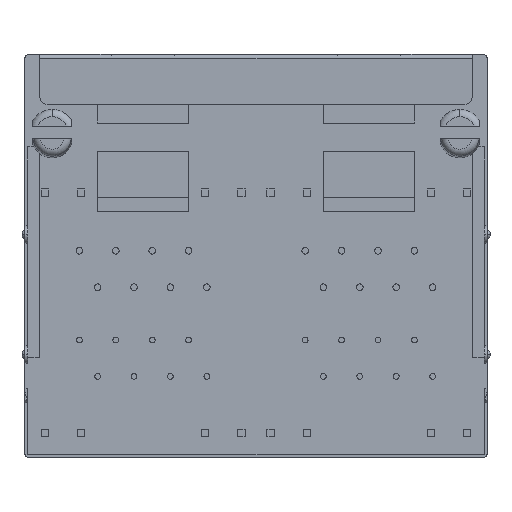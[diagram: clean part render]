
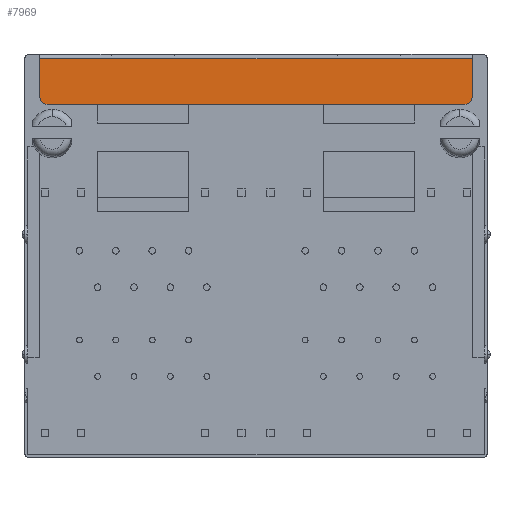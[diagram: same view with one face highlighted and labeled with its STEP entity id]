
A CAD part, front view. The second image highlights one B-rep face of the part: STEP entity #7969.
In plain terms, the highlighted planar face has unit normal (0, -1, 0).
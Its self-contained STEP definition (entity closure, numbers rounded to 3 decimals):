
#22 = ORIENTED_EDGE ( 'NONE', *, *, #17649, .T. ) ;
#193 = CARTESIAN_POINT ( 'NONE',  ( 23.352, -10.622, 11.075 ) ) ;
#1204 = EDGE_CURVE ( 'NONE', #27133, #26561, #25817, .T. ) ;
#1419 = CIRCLE ( 'NONE', #5849, 0.5 ) ;
#1609 = LINE ( 'NONE', #29257, #17470 ) ;
#2187 = ORIENTED_EDGE ( 'NONE', *, *, #11264, .F. ) ;
#2387 = VECTOR ( 'NONE', #24136, 1000. ) ;
#4523 = DIRECTION ( 'NONE',  ( 0., 0., 1. ) ) ;
#5126 = CARTESIAN_POINT ( 'NONE',  ( -6.298, -10.622, 14.075 ) ) ;
#5691 = DIRECTION ( 'NONE',  ( 0., -1., 0. ) ) ;
#5849 = AXIS2_PLACEMENT_3D ( 'NONE', #17403, #5691, #15103 ) ;
#6128 = ORIENTED_EDGE ( 'NONE', *, *, #8989, .T. ) ;
#6394 = FACE_OUTER_BOUND ( 'NONE', #20317, .T. ) ;
#6742 = VECTOR ( 'NONE', #17626, 1000. ) ;
#7013 = CARTESIAN_POINT ( 'NONE',  ( -6.298, -10.622, 11.075 ) ) ;
#7453 = LINE ( 'NONE', #9935, #9580 ) ;
#7734 = ORIENTED_EDGE ( 'NONE', *, *, #1204, .F. ) ;
#7969 = ADVANCED_FACE ( 'NONE', ( #6394 ), #18400, .F. ) ;
#8147 = CARTESIAN_POINT ( 'NONE',  ( 23.852, -10.622, 11.075 ) ) ;
#8193 = CARTESIAN_POINT ( 'NONE',  ( -6.298, -10.622, 13.775 ) ) ;
#8224 = LINE ( 'NONE', #25206, #6742 ) ;
#8293 = CIRCLE ( 'NONE', #18630, 0.5 ) ;
#8603 = VERTEX_POINT ( 'NONE', #12497 ) ;
#8863 = DIRECTION ( 'NONE',  ( 1., 0., 0. ) ) ;
#8989 = EDGE_CURVE ( 'NONE', #23817, #8603, #1609, .T. ) ;
#9580 = VECTOR ( 'NONE', #28617, 1000. ) ;
#9618 = DIRECTION ( 'NONE',  ( 0., 1., 0. ) ) ;
#9671 = CARTESIAN_POINT ( 'NONE',  ( 23.352, -10.622, 10.575 ) ) ;
#9935 = CARTESIAN_POINT ( 'NONE',  ( -6.298, -10.622, 10.575 ) ) ;
#11264 = EDGE_CURVE ( 'NONE', #26561, #8603, #8224, .T. ) ;
#12497 = CARTESIAN_POINT ( 'NONE',  ( 23.852, -10.622, 13.775 ) ) ;
#13481 = DIRECTION ( 'NONE',  ( 0., 1., 0. ) ) ;
#13568 = EDGE_CURVE ( 'NONE', #23817, #19788, #8293, .T. ) ;
#15103 = DIRECTION ( 'NONE',  ( 0., 0., 1. ) ) ;
#16095 = CARTESIAN_POINT ( 'NONE',  ( -7.348, -10.622, 14.075 ) ) ;
#17403 = CARTESIAN_POINT ( 'NONE',  ( -5.798, -10.622, 11.075 ) ) ;
#17470 = VECTOR ( 'NONE', #24775, 1000. ) ;
#17626 = DIRECTION ( 'NONE',  ( 1., 0., 0. ) ) ;
#17649 = EDGE_CURVE ( 'NONE', #27133, #25053, #1419, .T. ) ;
#18400 = PLANE ( 'NONE',  #29183 ) ;
#18630 = AXIS2_PLACEMENT_3D ( 'NONE', #193, #9618, #4523 ) ;
#19788 = VERTEX_POINT ( 'NONE', #9671 ) ;
#19853 = ORIENTED_EDGE ( 'NONE', *, *, #13568, .F. ) ;
#20317 = EDGE_LOOP ( 'NONE', ( #2187, #7734, #22, #25913, #19853, #6128 ) ) ;
#23817 = VERTEX_POINT ( 'NONE', #8147 ) ;
#24136 = DIRECTION ( 'NONE',  ( 0., 0., 1. ) ) ;
#24775 = DIRECTION ( 'NONE',  ( 0., 0., 1. ) ) ;
#25053 = VERTEX_POINT ( 'NONE', #27330 ) ;
#25206 = CARTESIAN_POINT ( 'NONE',  ( 23.852, -10.622, 13.775 ) ) ;
#25817 = LINE ( 'NONE', #5126, #2387 ) ;
#25913 = ORIENTED_EDGE ( 'NONE', *, *, #29914, .F. ) ;
#26561 = VERTEX_POINT ( 'NONE', #8193 ) ;
#27133 = VERTEX_POINT ( 'NONE', #7013 ) ;
#27330 = CARTESIAN_POINT ( 'NONE',  ( -5.798, -10.622, 10.575 ) ) ;
#28617 = DIRECTION ( 'NONE',  ( -1., 0., 0. ) ) ;
#29183 = AXIS2_PLACEMENT_3D ( 'NONE', #16095, #13481, #8863 ) ;
#29257 = CARTESIAN_POINT ( 'NONE',  ( 23.852, -10.622, 14.075 ) ) ;
#29914 = EDGE_CURVE ( 'NONE', #19788, #25053, #7453, .T. ) ;
